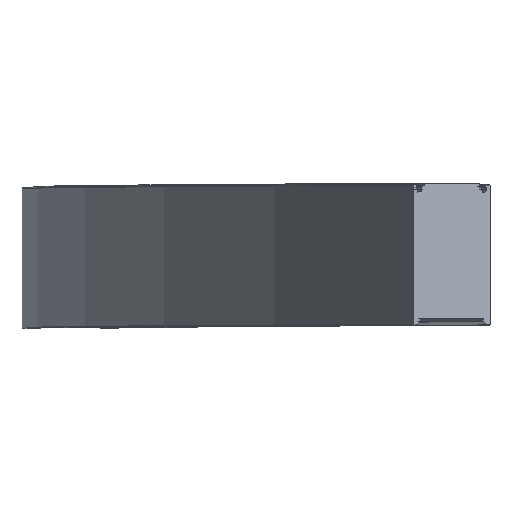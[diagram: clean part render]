
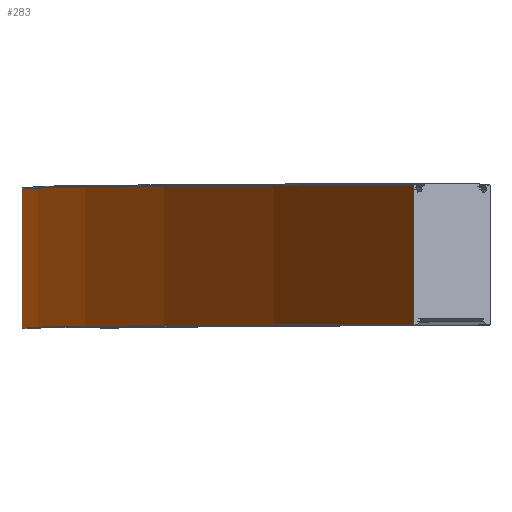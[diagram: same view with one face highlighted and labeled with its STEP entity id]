
A CAD part, top view. The second image highlights one B-rep face of the part: STEP entity #283.
In plain terms, the highlighted cylindrical face has radius 2923.5 mm (diameter 5847 mm), a partial arc.
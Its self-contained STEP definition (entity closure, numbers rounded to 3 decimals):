
#18 = CARTESIAN_POINT ( 'NONE',  ( 199.038, 79.5, 1118.775 ) ) ;
#79 = LINE ( 'NONE', #18, #1302 ) ;
#92 = EDGE_LOOP ( 'NONE', ( #1588, #942, #533, #204 ) ) ;
#96 = CARTESIAN_POINT ( 'NONE',  ( 2900., 0.5, 0. ) ) ;
#152 = CARTESIAN_POINT ( 'NONE',  ( -23.5, 79.5, 0. ) ) ;
#171 = DIRECTION ( 'NONE',  ( -1., 0., 0. ) ) ;
#189 = CARTESIAN_POINT ( 'NONE',  ( 199.038, 0.5, 1118.775 ) ) ;
#204 = ORIENTED_EDGE ( 'NONE', *, *, #893, .T. ) ;
#239 = FACE_OUTER_BOUND ( 'NONE', #92, .T. ) ;
#283 = ADVANCED_FACE ( 'NONE', ( #239 ), #1385, .T. ) ;
#373 = CARTESIAN_POINT ( 'NONE',  ( 2900., 0., 0. ) ) ;
#413 = DIRECTION ( 'NONE',  ( 0., -1., 0. ) ) ;
#419 = CARTESIAN_POINT ( 'NONE',  ( 2900., 79.5, 0. ) ) ;
#423 = AXIS2_PLACEMENT_3D ( 'NONE', #419, #1334, #171 ) ;
#454 = EDGE_CURVE ( 'NONE', #1199, #1160, #79, .T. ) ;
#478 = DIRECTION ( 'NONE',  ( -1., 0., 0. ) ) ;
#490 = VERTEX_POINT ( 'NONE', #152 ) ;
#533 = ORIENTED_EDGE ( 'NONE', *, *, #554, .F. ) ;
#554 = EDGE_CURVE ( 'NONE', #490, #1199, #896, .T. ) ;
#660 = CARTESIAN_POINT ( 'NONE',  ( -23.5, 79.5, 0. ) ) ;
#792 = DIRECTION ( 'NONE',  ( 0., -1., 0. ) ) ;
#798 = EDGE_CURVE ( 'NONE', #1262, #1160, #901, .T. ) ;
#868 = CARTESIAN_POINT ( 'NONE',  ( 199.038, 79.5, 1118.775 ) ) ;
#893 = EDGE_CURVE ( 'NONE', #490, #1262, #1209, .T. ) ;
#896 = CIRCLE ( 'NONE', #423, 2923.5 ) ;
#901 = CIRCLE ( 'NONE', #1465, 2923.5 ) ;
#942 = ORIENTED_EDGE ( 'NONE', *, *, #454, .F. ) ;
#994 = CARTESIAN_POINT ( 'NONE',  ( -23.5, 0.5, 0. ) ) ;
#1075 = VECTOR ( 'NONE', #792, 1000. ) ;
#1119 = DIRECTION ( 'NONE',  ( 0., 1., 0. ) ) ;
#1160 = VERTEX_POINT ( 'NONE', #189 ) ;
#1199 = VERTEX_POINT ( 'NONE', #868 ) ;
#1209 = LINE ( 'NONE', #660, #1075 ) ;
#1262 = VERTEX_POINT ( 'NONE', #994 ) ;
#1302 = VECTOR ( 'NONE', #413, 1000. ) ;
#1334 = DIRECTION ( 'NONE',  ( 0., 1., 0. ) ) ;
#1385 = CYLINDRICAL_SURFACE ( 'NONE', #1451, 2923.5 ) ;
#1451 = AXIS2_PLACEMENT_3D ( 'NONE', #373, #1537, #1531 ) ;
#1465 = AXIS2_PLACEMENT_3D ( 'NONE', #96, #1119, #478 ) ;
#1531 = DIRECTION ( 'NONE',  ( 0., 0., 1. ) ) ;
#1537 = DIRECTION ( 'NONE',  ( 0., 1., 0. ) ) ;
#1588 = ORIENTED_EDGE ( 'NONE', *, *, #798, .T. ) ;
